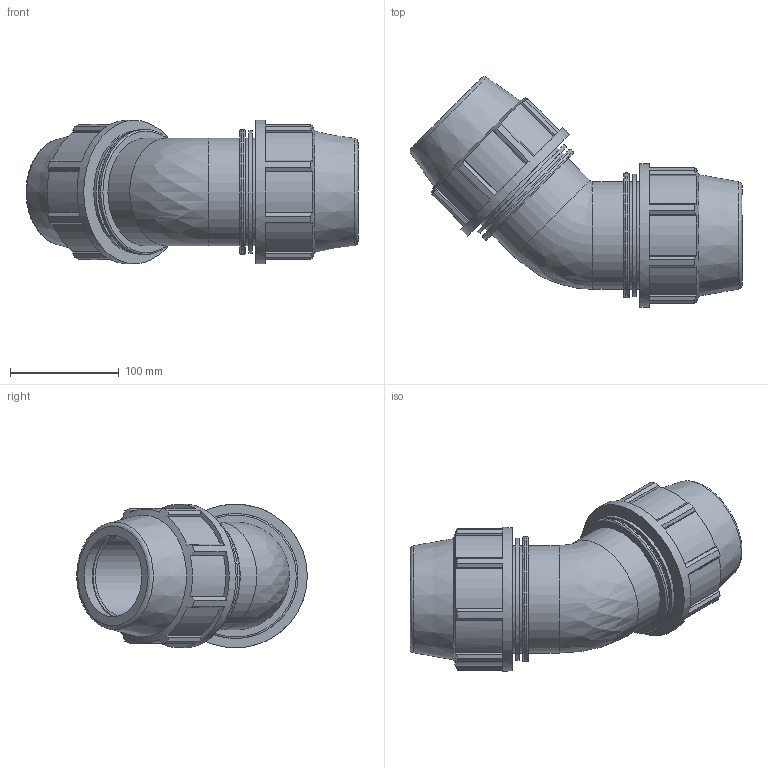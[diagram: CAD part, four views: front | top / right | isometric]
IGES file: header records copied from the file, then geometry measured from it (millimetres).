
Global section: file name: 870600075_180600075.ipt; native system: Autodesk Inventor 2015; preprocessor: unknown; author: Кирилл,,11,0; organization: 20170224.180708; date: 20170608.042501; units: millimetre
Bounding box: 304.76 x 211.76 x 132 mm (x, y, z)
Volume: 1644929.6 mm3; surface area: 231873.6 mm2
Topology: 1 solids, 1 shells, 140 faces, 388 edges, 262 vertices
Faces by surface type: plane 94, cylinder 28, revolution 14, cone 4
Full cylindrical faces by diameter (mm): 99 x6, 112.543 x2, 114.84 x2, 132 x2
